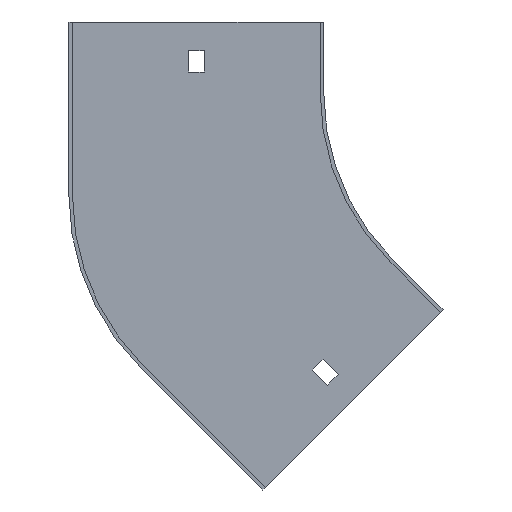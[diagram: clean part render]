
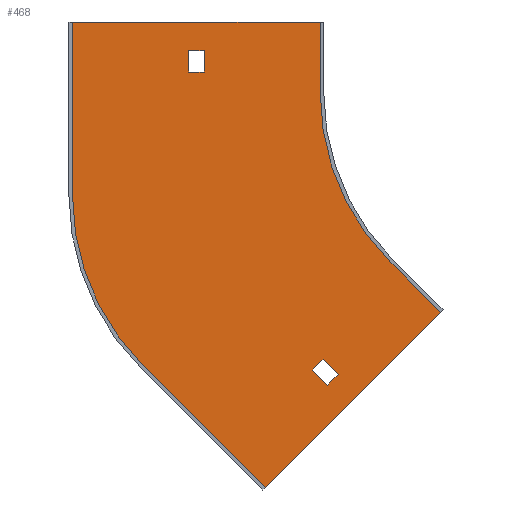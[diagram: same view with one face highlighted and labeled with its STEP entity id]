
A CAD part, front view. The second image highlights one B-rep face of the part: STEP entity #468.
In plain terms, the highlighted planar face has unit normal (0, -1, 0).
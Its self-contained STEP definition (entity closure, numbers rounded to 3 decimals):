
#2 = ORIENTED_EDGE ( 'NONE', *, *, #157, .T. ) ;
#10 = CARTESIAN_POINT ( 'NONE',  ( -204., -1.5, -43.078 ) ) ;
#16 = EDGE_LOOP ( 'NONE', ( #726, #338, #355, #620 ) ) ;
#17 = VERTEX_POINT ( 'NONE', #56 ) ;
#23 = LINE ( 'NONE', #290, #39 ) ;
#30 = CARTESIAN_POINT ( 'NONE',  ( -155.25, -1.5, 18. ) ) ;
#34 = VECTOR ( 'NONE', #233, 1000. ) ;
#39 = VECTOR ( 'NONE', #812, 1000. ) ;
#40 = VERTEX_POINT ( 'NONE', #130 ) ;
#56 = CARTESIAN_POINT ( 'NONE',  ( -100., -1.5, 30. ) ) ;
#98 = ORIENTED_EDGE ( 'NONE', *, *, #154, .F. ) ;
#100 = DIRECTION ( 'NONE',  ( -0.707, 0., -0.707 ) ) ;
#107 = VERTEX_POINT ( 'NONE', #10 ) ;
#108 = CARTESIAN_POINT ( 'NONE',  ( -100., -1.5, 0. ) ) ;
#110 = CARTESIAN_POINT ( 'NONE',  ( -92.454, -1.5, -117.91 ) ) ;
#127 = PLANE ( 'NONE',  #327 ) ;
#130 = CARTESIAN_POINT ( 'NONE',  ( -49.497, -1.5, -91.924 ) ) ;
#132 = EDGE_CURVE ( 'NONE', #146, #478, #23, .T. ) ;
#133 = ORIENTED_EDGE ( 'NONE', *, *, #216, .F. ) ;
#140 = ORIENTED_EDGE ( 'NONE', *, *, #556, .T. ) ;
#141 = CIRCLE ( 'NONE', #636, 100. ) ;
#143 = DIRECTION ( 'NONE',  ( 0., 0., -1. ) ) ;
#145 = ORIENTED_EDGE ( 'NONE', *, *, #596, .F. ) ;
#146 = VERTEX_POINT ( 'NONE', #561 ) ;
#154 = EDGE_CURVE ( 'NONE', #107, #744, #824, .T. ) ;
#157 = EDGE_CURVE ( 'NONE', #442, #660, #692, .T. ) ;
#158 = CARTESIAN_POINT ( 'NONE',  ( -123.037, -1.5, -165.463 ) ) ;
#163 = CARTESIAN_POINT ( 'NONE',  ( -104., -1.5, -43.078 ) ) ;
#170 = DIRECTION ( 'NONE',  ( 0.707, 0., -0.707 ) ) ;
#176 = EDGE_CURVE ( 'NONE', #544, #693, #624, .T. ) ;
#177 = CARTESIAN_POINT ( 'NONE',  ( -70.711, -1.5, -70.711 ) ) ;
#184 = DIRECTION ( 'NONE',  ( 0., -1., 0. ) ) ;
#190 = CARTESIAN_POINT ( 'NONE',  ( -70.711, -1.5, -70.711 ) ) ;
#201 = VECTOR ( 'NONE', #490, 1000. ) ;
#203 = EDGE_CURVE ( 'NONE', #329, #107, #141, .T. ) ;
#208 = FACE_BOUND ( 'NONE', #16, .T. ) ;
#216 = EDGE_CURVE ( 'NONE', #352, #329, #296, .T. ) ;
#220 = CARTESIAN_POINT ( 'NONE',  ( -205.5, -1.5, 30. ) ) ;
#229 = CARTESIAN_POINT ( 'NONE',  ( -204., -1.5, -43.078 ) ) ;
#233 = DIRECTION ( 'NONE',  ( 1., 0., 0. ) ) ;
#234 = EDGE_CURVE ( 'NONE', #40, #352, #689, .T. ) ;
#236 = CARTESIAN_POINT ( 'NONE',  ( 0., -1.5, 9. ) ) ;
#238 = VECTOR ( 'NONE', #553, 1000. ) ;
#239 = ORIENTED_EDGE ( 'NONE', *, *, #203, .F. ) ;
#243 = CARTESIAN_POINT ( 'NONE',  ( 0., -1.5, 0. ) ) ;
#251 = ORIENTED_EDGE ( 'NONE', *, *, #625, .T. ) ;
#255 = ORIENTED_EDGE ( 'NONE', *, *, #679, .T. ) ;
#256 = DIRECTION ( 'NONE',  ( 0., 0., 1. ) ) ;
#257 = CARTESIAN_POINT ( 'NONE',  ( -155.25, -1.5, 9. ) ) ;
#271 = EDGE_CURVE ( 'NONE', #593, #740, #535, .T. ) ;
#288 = LINE ( 'NONE', #292, #238 ) ;
#290 = CARTESIAN_POINT ( 'NONE',  ( 12.728, -1.5, -12.728 ) ) ;
#292 = CARTESIAN_POINT ( 'NONE',  ( -148.75, -1.5, 0. ) ) ;
#293 = DIRECTION ( 'NONE',  ( -0.707, 0., 0.707 ) ) ;
#296 = LINE ( 'NONE', #158, #321 ) ;
#313 = DIRECTION ( 'NONE',  ( 0., 0., -1. ) ) ;
#321 = VECTOR ( 'NONE', #612, 1000. ) ;
#327 = AXIS2_PLACEMENT_3D ( 'NONE', #243, #595, #313 ) ;
#329 = VERTEX_POINT ( 'NONE', #443 ) ;
#338 = ORIENTED_EDGE ( 'NONE', *, *, #132, .F. ) ;
#343 = CARTESIAN_POINT ( 'NONE',  ( 0., -1.5, 18. ) ) ;
#345 = VERTEX_POINT ( 'NONE', #257 ) ;
#352 = VERTEX_POINT ( 'NONE', #394 ) ;
#353 = CARTESIAN_POINT ( 'NONE',  ( -48.437, -1.5, -90.863 ) ) ;
#355 = ORIENTED_EDGE ( 'NONE', *, *, #424, .F. ) ;
#356 = ORIENTED_EDGE ( 'NONE', *, *, #690, .F. ) ;
#357 = LINE ( 'NONE', #220, #415 ) ;
#358 = CARTESIAN_POINT ( 'NONE',  ( -105.182, -1.5, -105.182 ) ) ;
#361 = DIRECTION ( 'NONE',  ( 1., 0., 0. ) ) ;
#366 = DIRECTION ( 'NONE',  ( 0., 0., -1. ) ) ;
#375 = LINE ( 'NONE', #582, #675 ) ;
#377 = VECTOR ( 'NONE', #688, 1000. ) ;
#394 = CARTESIAN_POINT ( 'NONE',  ( -123.037, -1.5, -165.463 ) ) ;
#415 = VECTOR ( 'NONE', #361, 1000. ) ;
#424 = EDGE_CURVE ( 'NONE', #693, #146, #757, .T. ) ;
#438 = EDGE_LOOP ( 'NONE', ( #2, #255, #140, #251 ) ) ;
#442 = VERTEX_POINT ( 'NONE', #30 ) ;
#443 = CARTESIAN_POINT ( 'NONE',  ( -174.711, -1.5, -113.789 ) ) ;
#450 = EDGE_CURVE ( 'NONE', #478, #544, #684, .T. ) ;
#453 = LINE ( 'NONE', #846, #765 ) ;
#454 = VECTOR ( 'NONE', #293, 1000. ) ;
#468 = ADVANCED_FACE ( 'NONE', ( #208, #565, #629 ), #127, .T. ) ;
#478 = VERTEX_POINT ( 'NONE', #110 ) ;
#486 = CARTESIAN_POINT ( 'NONE',  ( -103.414, -1.5, -116.142 ) ) ;
#490 = DIRECTION ( 'NONE',  ( 0., 0., 1. ) ) ;
#532 = ORIENTED_EDGE ( 'NONE', *, *, #572, .F. ) ;
#535 = CIRCLE ( 'NONE', #697, 100. ) ;
#544 = VERTEX_POINT ( 'NONE', #570 ) ;
#547 = ORIENTED_EDGE ( 'NONE', *, *, #234, .F. ) ;
#553 = DIRECTION ( 'NONE',  ( 0., 0., -1. ) ) ;
#554 = CARTESIAN_POINT ( 'NONE',  ( -109.778, -1.5, -109.778 ) ) ;
#556 = EDGE_CURVE ( 'NONE', #756, #345, #822, .T. ) ;
#561 = CARTESIAN_POINT ( 'NONE',  ( -97.05, -1.5, -122.506 ) ) ;
#565 = FACE_OUTER_BOUND ( 'NONE', #626, .T. ) ;
#568 = VECTOR ( 'NONE', #764, 1000. ) ;
#570 = CARTESIAN_POINT ( 'NONE',  ( -98.818, -1.5, -111.546 ) ) ;
#572 = EDGE_CURVE ( 'NONE', #740, #40, #588, .T. ) ;
#582 = CARTESIAN_POINT ( 'NONE',  ( -100., -1.5, 30. ) ) ;
#588 = LINE ( 'NONE', #177, #803 ) ;
#593 = VERTEX_POINT ( 'NONE', #108 ) ;
#595 = DIRECTION ( 'NONE',  ( 0., -1., 0. ) ) ;
#596 = EDGE_CURVE ( 'NONE', #17, #593, #375, .T. ) ;
#612 = DIRECTION ( 'NONE',  ( -0.707, 0., 0.707 ) ) ;
#618 = CARTESIAN_POINT ( 'NONE',  ( 6.364, -1.5, -6.364 ) ) ;
#620 = ORIENTED_EDGE ( 'NONE', *, *, #176, .F. ) ;
#624 = LINE ( 'NONE', #618, #568 ) ;
#625 = EDGE_CURVE ( 'NONE', #345, #442, #453, .T. ) ;
#626 = EDGE_LOOP ( 'NONE', ( #356, #98, #239, #133, #547, #532, #707, #145 ) ) ;
#629 = FACE_BOUND ( 'NONE', #438, .T. ) ;
#636 = AXIS2_PLACEMENT_3D ( 'NONE', #163, #749, #143 ) ;
#643 = VECTOR ( 'NONE', #763, 1000. ) ;
#646 = DIRECTION ( 'NONE',  ( 0., 0., -1. ) ) ;
#660 = VERTEX_POINT ( 'NONE', #815 ) ;
#675 = VECTOR ( 'NONE', #646, 1000. ) ;
#679 = EDGE_CURVE ( 'NONE', #660, #756, #288, .T. ) ;
#684 = LINE ( 'NONE', #358, #454 ) ;
#688 = DIRECTION ( 'NONE',  ( 0.707, 0., -0.707 ) ) ;
#689 = LINE ( 'NONE', #353, #727 ) ;
#690 = EDGE_CURVE ( 'NONE', #744, #17, #357, .T. ) ;
#692 = LINE ( 'NONE', #343, #34 ) ;
#693 = VERTEX_POINT ( 'NONE', #486 ) ;
#697 = AXIS2_PLACEMENT_3D ( 'NONE', #831, #184, #366 ) ;
#707 = ORIENTED_EDGE ( 'NONE', *, *, #271, .F. ) ;
#719 = CARTESIAN_POINT ( 'NONE',  ( -148.75, -1.5, 9. ) ) ;
#726 = ORIENTED_EDGE ( 'NONE', *, *, #450, .F. ) ;
#727 = VECTOR ( 'NONE', #100, 1000. ) ;
#740 = VERTEX_POINT ( 'NONE', #190 ) ;
#744 = VERTEX_POINT ( 'NONE', #857 ) ;
#749 = DIRECTION ( 'NONE',  ( 0., 1., 0. ) ) ;
#756 = VERTEX_POINT ( 'NONE', #719 ) ;
#757 = LINE ( 'NONE', #554, #377 ) ;
#763 = DIRECTION ( 'NONE',  ( -1., 0., 0. ) ) ;
#764 = DIRECTION ( 'NONE',  ( -0.707, 0., -0.707 ) ) ;
#765 = VECTOR ( 'NONE', #256, 1000. ) ;
#803 = VECTOR ( 'NONE', #170, 1000. ) ;
#812 = DIRECTION ( 'NONE',  ( 0.707, 0., 0.707 ) ) ;
#815 = CARTESIAN_POINT ( 'NONE',  ( -148.75, -1.5, 18. ) ) ;
#822 = LINE ( 'NONE', #236, #643 ) ;
#824 = LINE ( 'NONE', #229, #201 ) ;
#831 = CARTESIAN_POINT ( 'NONE',  ( 0., -1.5, 0. ) ) ;
#846 = CARTESIAN_POINT ( 'NONE',  ( -155.25, -1.5, 0. ) ) ;
#857 = CARTESIAN_POINT ( 'NONE',  ( -204., -1.5, 30. ) ) ;
